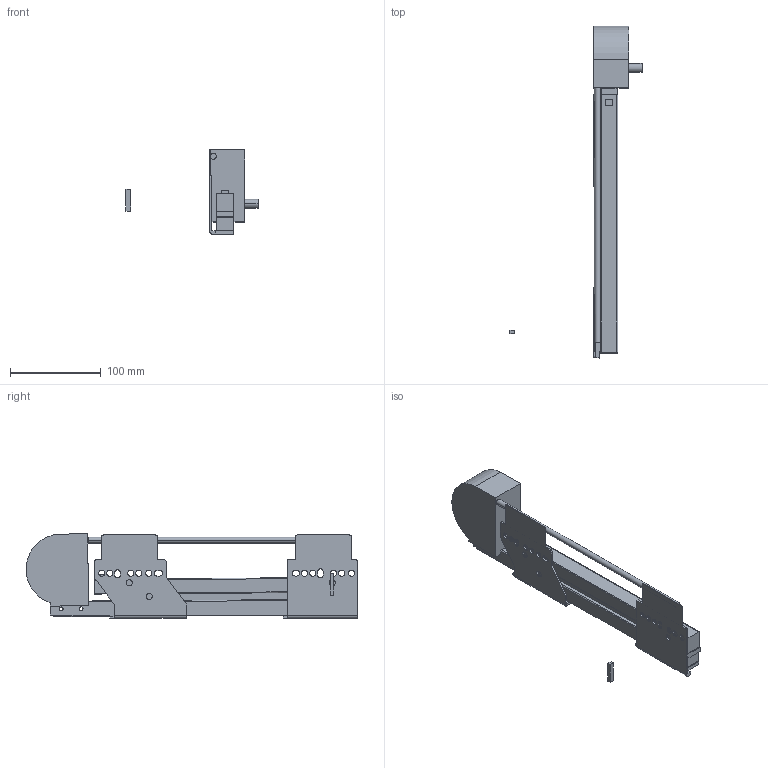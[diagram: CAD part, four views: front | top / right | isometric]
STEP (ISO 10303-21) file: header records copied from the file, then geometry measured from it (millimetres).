
FILE_DESCRIPTION (( 'STEP AP214' ), '1' );
FILE_NAME ('_IMOS_NOVA-Pro_Sensotronic_KS_P904_LI_NL-300_EB29mm.step', '2010-07-23T08:20:04', ( 'grass' ), ( '' ), 'SwSTEP 2.0', 'SolidWorks 2009', '' );
FILE_SCHEMA (( 'AUTOMOTIVE_DESIGN' ));
Length unit declared in the file: millimetre
Products named in the file (1): _IMOS_NOVA-Pro_Sensotronic_KS_P904_LI_NL-300_EB29mm
Bounding box: 145.8 x 366.56 x 93.04 mm (x, y, z)
Volume: 428046.2 mm3; surface area: 102346.5 mm2
Topology: 3 solids, 3 shells, 153 faces, 431 edges, 286 vertices
Faces by surface type: plane 91, cylinder 62
Entity records: 5086 total; most frequent: CARTESIAN_POINT 889, ORIENTED_EDGE 862, DIRECTION 858, EDGE_CURVE 431, LINE 300, VECTOR 300, VERTEX_POINT 286, AXIS2_PLACEMENT_3D 279
